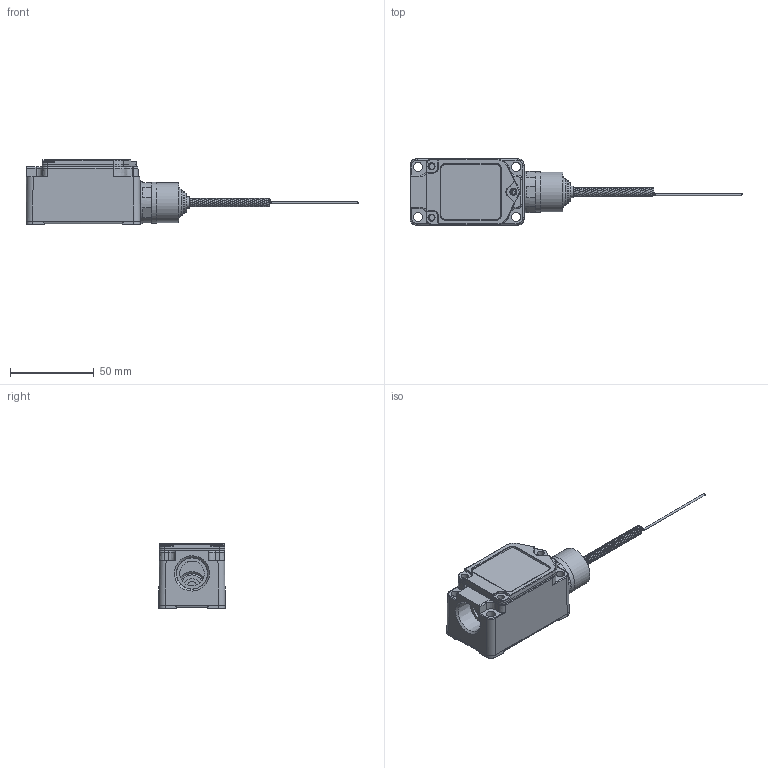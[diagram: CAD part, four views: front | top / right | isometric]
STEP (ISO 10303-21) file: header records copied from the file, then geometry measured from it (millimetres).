
FILE_DESCRIPTION(('FreeCAD Model'),'2;1');
FILE_NAME('Open CASCADE Shape Model','2026-09-09T09:18:37',(''),(''), 'Open CASCADE STEP processor 7.8','FreeCAD','Unknown');
FILE_SCHEMA(('AUTOMOTIVE_DESIGN { 1 0 10303 214 1 1 1 1 }'));
Length unit declared in the file: millimetre
Products named in the file (9): FM5169; 1; 2; 3; 4; 5; 6; 7; 8
Assembly tree (8 placements, depth 2):
  FM5169
    1
    2
    3
    4
    5
    6
    7
    8
Bounding box: 198.77 x 39.83 x 38.77 mm (x, y, z)
Volume: 59825.6 mm3; surface area: 36104.6 mm2
Topology: 8 solids, 8 shells, 1007 faces, 2248 edges, 1280 vertices
Faces by surface type: torus 513, cylinder 213, plane 163, bspline 69, cone 43, sphere 6
Full cylindrical faces by diameter (mm): 1.2 x1, 2.687 x3, 3.394 x2, 3.402 x1, 4.221 x3, 4.379 x3, 5.4 x4, 6 x1, 6.966 x4, 7 x1, 7.6 x1, 9.7 x1, 9.9 x1, 9.952 x3, 11.3 x1, 13.4 x1, 14.689 x1, 15.5 x1, 18.401 x1, 18.5 x1, 23.9 x1, 24.4 x1, 25 x1
Entity records: 37413 total; most frequent: CARTESIAN_POINT 16459, ORIENTED_EDGE 4496, DIRECTION 4378, EDGE_CURVE 2248, AXIS2_PLACEMENT_3D 1916, VERTEX_POINT 1280, FACE_BOUND 1055, EDGE_LOOP 1055
